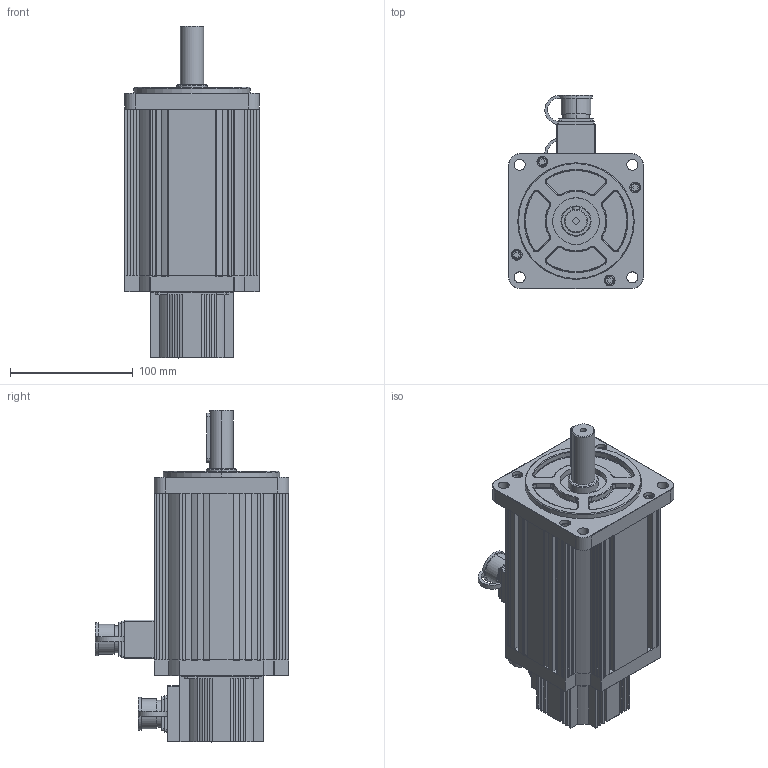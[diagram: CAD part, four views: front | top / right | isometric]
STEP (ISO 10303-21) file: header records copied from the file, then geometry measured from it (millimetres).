
FILE_DESCRIPTION (( 'STEP AP203' ), '1' );
FILE_NAME ('110-180系列伺服电机[110ST-M06030].STEP', '2020-07-04T00:35:52', ( '微软用户' ), ( '微软中国' ), 'SwSTEP 2.0', 'SolidWorks 2016', '' );
FILE_SCHEMA (( 'CONFIG_CONTROL_DESIGN' ));
Products named in the file (1): 110-180炵蹈侜督萇儂[110ST-M06030]
Bounding box: 110 x 158 x 271 mm (x, y, z)
Volume: 1986222 mm3; surface area: 155536.3 mm2
Topology: 1 solids, 1 shells, 2241 faces, 5719 edges, 3618 vertices
Faces by surface type: plane 1152, cylinder 517, bspline 370, torus 180, sphere 16, cone 6
Entity records: 83377 total; most frequent: CARTESIAN_POINT 31744, ORIENTED_EDGE 11406, DIRECTION 9378, EDGE_CURVE 5703, LINE 3830, VECTOR 3830, VERTEX_POINT 3618, AXIS2_PLACEMENT_3D 2774
